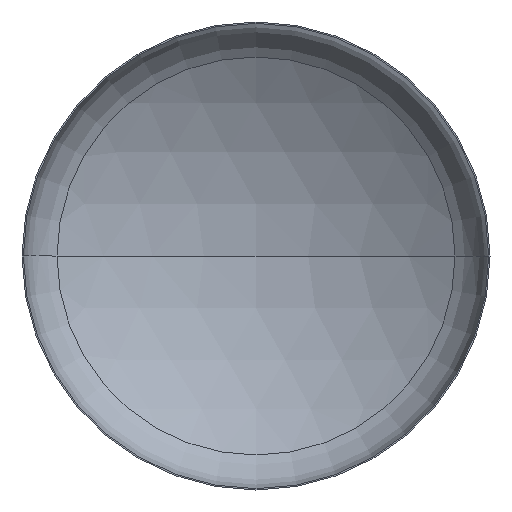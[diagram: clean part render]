
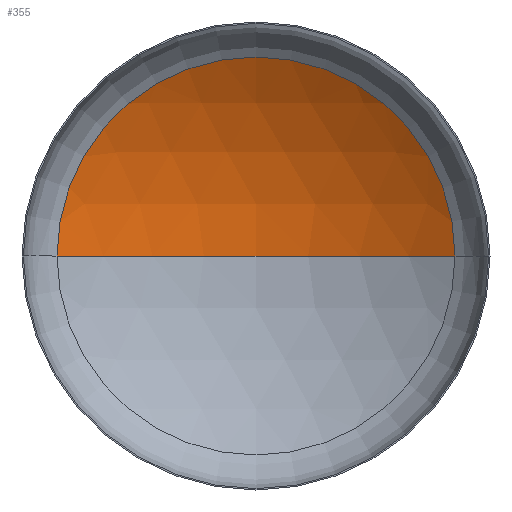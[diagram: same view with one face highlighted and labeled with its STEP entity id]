
A CAD part, front view. The second image highlights one B-rep face of the part: STEP entity #355.
In plain terms, the highlighted spherical face has radius 2240 mm.
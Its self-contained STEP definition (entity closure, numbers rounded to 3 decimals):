
#1 = AXIS2_PLACEMENT_3D ( 'NONE', #268, #261, #193 ) ;
#3 = AXIS2_PLACEMENT_3D ( 'NONE', #381, #254, #283 ) ;
#6 = VERTEX_POINT ( 'NONE', #192 ) ;
#10 = AXIS2_PLACEMENT_3D ( 'NONE', #196, #340, #369 ) ;
#26 = AXIS2_PLACEMENT_3D ( 'NONE', #272, #288, #287 ) ;
#28 = ORIENTED_EDGE ( 'NONE', *, *, #383, .T. ) ;
#60 = VERTEX_POINT ( 'NONE', #204 ) ;
#87 = ORIENTED_EDGE ( 'NONE', *, *, #377, .F. ) ;
#92 = CIRCLE ( 'NONE', #1, 2240. ) ;
#99 = VERTEX_POINT ( 'NONE', #395 ) ;
#116 = ORIENTED_EDGE ( 'NONE', *, *, #333, .T. ) ;
#126 = EDGE_LOOP ( 'NONE', ( #87, #28, #116 ) ) ;
#180 = CIRCLE ( 'NONE', #26, 2240. ) ;
#192 = CARTESIAN_POINT ( 'NONE',  ( 1190.541, 389.237, 0. ) ) ;
#193 = DIRECTION ( 'NONE',  ( 1., 0., 0. ) ) ;
#196 = CARTESIAN_POINT ( 'NONE',  ( 0., 389.237, 0. ) ) ;
#204 = CARTESIAN_POINT ( 'NONE',  ( -1190.541, 389.237, 0. ) ) ;
#254 = DIRECTION ( 'NONE',  ( 0., 0., -1. ) ) ;
#259 = FACE_OUTER_BOUND ( 'NONE', #126, .T. ) ;
#261 = DIRECTION ( 'NONE',  ( 0., 0., 1. ) ) ;
#268 = CARTESIAN_POINT ( 'NONE',  ( 0., -1508.185, 0. ) ) ;
#272 = CARTESIAN_POINT ( 'NONE',  ( 0., -1508.185, 0. ) ) ;
#283 = DIRECTION ( 'NONE',  ( -1., 0., 0. ) ) ;
#287 = DIRECTION ( 'NONE',  ( -1., 0., 0. ) ) ;
#288 = DIRECTION ( 'NONE',  ( 0., 0., -1. ) ) ;
#317 = SPHERICAL_SURFACE ( 'NONE', #3, 2240. ) ;
#333 = EDGE_CURVE ( 'NONE', #6, #60, #397, .T. ) ;
#340 = DIRECTION ( 'NONE',  ( 0., -1., 0. ) ) ;
#355 = ADVANCED_FACE ( 'NONE', ( #259 ), #317, .F. ) ;
#369 = DIRECTION ( 'NONE',  ( 1., 0., 0. ) ) ;
#377 = EDGE_CURVE ( 'NONE', #99, #60, #92, .T. ) ;
#381 = CARTESIAN_POINT ( 'NONE',  ( 0., -1508.185, 0. ) ) ;
#383 = EDGE_CURVE ( 'NONE', #99, #6, #180, .T. ) ;
#395 = CARTESIAN_POINT ( 'NONE',  ( 0., 731.815, 0. ) ) ;
#397 = CIRCLE ( 'NONE', #10, 1190.541 ) ;
